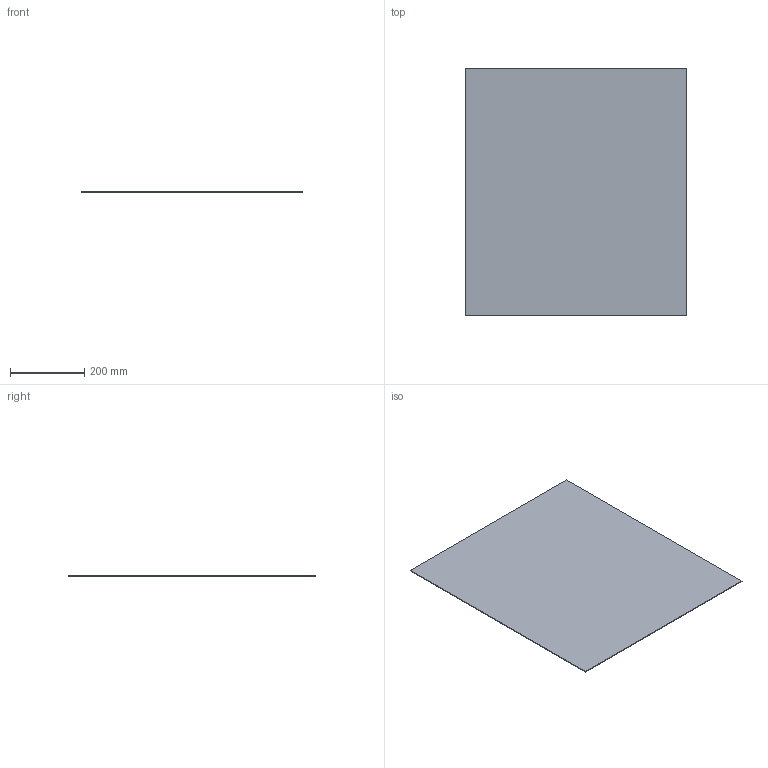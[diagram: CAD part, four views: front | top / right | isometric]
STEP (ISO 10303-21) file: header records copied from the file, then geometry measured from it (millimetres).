
FILE_DESCRIPTION(/* description */ (''),/* implementation_level */ '2;1');
FILE_NAME(/* name */ 'cmdmx-bodemplaat.step',/* time_stamp */ '2026-11-13T20:16:51+01:00',/* author */ (''),/* organization */ (''),/* preprocessor_version */ 'ST-DEVELOPER v20.2',/* originating_system */ 'Autodesk Translation Framework v15.17.0.0',/* authorisation */ '');
FILE_SCHEMA (('AUTOMOTIVE_DESIGN { 1 0 10303 214 3 1 1 }'));
Length unit declared in the file: millimetre
Products named in the file (1): 2026-11-13-20-16-51-345
Bounding box: 596 x 666 x 2 mm (x, y, z)
Volume: 793872 mm3; surface area: 798920 mm2
Topology: 1 solids, 1 shells, 6 faces, 12 edges, 8 vertices
Faces by surface type: plane 6
Entity records: 196 total; most frequent: CARTESIAN_POINT 27, DIRECTION 26, ORIENTED_EDGE 24, LINE 12, VECTOR 12, EDGE_CURVE 12, VERTEX_POINT 8, AXIS2_PLACEMENT_3D 7
